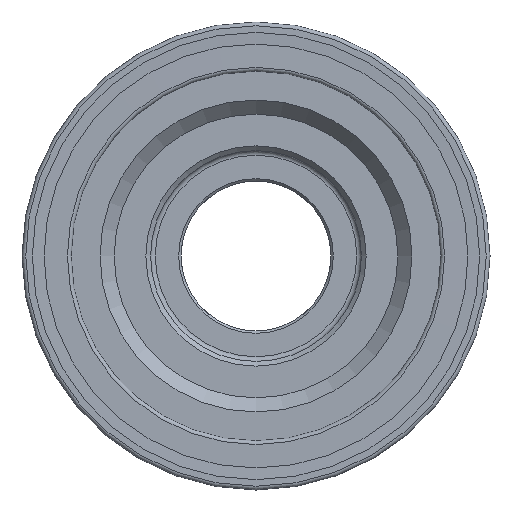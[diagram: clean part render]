
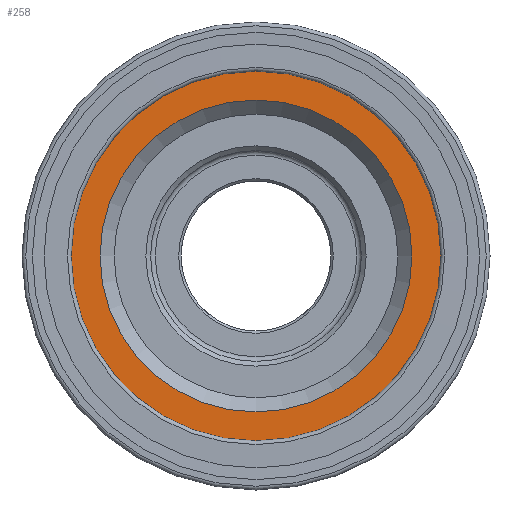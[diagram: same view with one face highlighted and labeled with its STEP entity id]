
A CAD part, left-side view. The second image highlights one B-rep face of the part: STEP entity #258.
In plain terms, the highlighted planar face has unit normal (-1, 0, 0).
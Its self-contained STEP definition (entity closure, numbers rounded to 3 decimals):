
#258=ADVANCED_FACE('',(#343,#344),#306,.T.);
#306=PLANE('',#959);
#343=FACE_BOUND('',#417,.T.);
#344=FACE_BOUND('',#418,.T.);
#417=EDGE_LOOP('',(#533));
#418=EDGE_LOOP('',(#534));
#533=ORIENTED_EDGE('',*,*,#801,.T.);
#534=ORIENTED_EDGE('',*,*,#802,.F.);
#720=VERTEX_POINT('',#1400);
#721=VERTEX_POINT('',#1403);
#801=EDGE_CURVE('',#720,#720,#888,.T.);
#802=EDGE_CURVE('',#721,#721,#889,.T.);
#888=CIRCLE('',#956,33.286);
#889=CIRCLE('',#958,41.286);
#956=AXIS2_PLACEMENT_3D('',#1399,#1112,#1113);
#958=AXIS2_PLACEMENT_3D('',#1402,#1116,#1117);
#959=AXIS2_PLACEMENT_3D('',#1404,#1118,#1119);
#1112=DIRECTION('',(1.,0.,0.));
#1113=DIRECTION('',(0.,0.,-1.));
#1116=DIRECTION('',(1.,0.,0.));
#1117=DIRECTION('',(0.,0.,-1.));
#1118=DIRECTION('',(-1.,0.,0.));
#1119=DIRECTION('',(0.,0.,1.));
#1399=CARTESIAN_POINT('',(1.5,0.,0.));
#1400=CARTESIAN_POINT('',(1.5,0.,-33.286));
#1402=CARTESIAN_POINT('',(1.5,0.,0.));
#1403=CARTESIAN_POINT('',(1.5,0.,-41.286));
#1404=CARTESIAN_POINT('',(1.5,41.286,0.));
